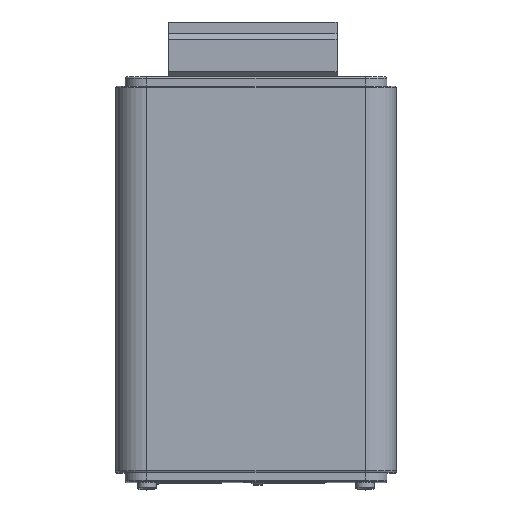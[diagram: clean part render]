
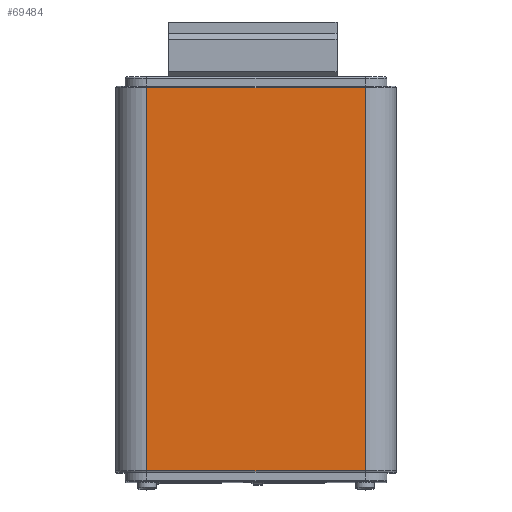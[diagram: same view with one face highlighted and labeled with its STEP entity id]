
A CAD part, top view. The second image highlights one B-rep face of the part: STEP entity #69484.
In plain terms, the highlighted planar face has unit normal (0, 0, 1).
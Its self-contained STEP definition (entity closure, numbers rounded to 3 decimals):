
#4304=PLANE('',#74742);
#7830=FACE_OUTER_BOUND('',#11551,.T.);
#11551=EDGE_LOOP('',(#64960,#64961,#64962,#64963));
#19509=LINE('',#113750,#27638);
#19748=LINE('',#114308,#27877);
#19751=LINE('',#114317,#27880);
#19752=LINE('',#114319,#27881);
#27638=VECTOR('',#92291,10.);
#27877=VECTOR('',#92864,10.);
#27880=VECTOR('',#92879,10.);
#27881=VECTOR('',#92882,10.);
#35623=VERTEX_POINT('',#113744);
#35624=VERTEX_POINT('',#113748);
#35775=VERTEX_POINT('',#114302);
#35776=VERTEX_POINT('',#114306);
#45289=EDGE_CURVE('',#35624,#35623,#19509,.T.);
#45602=EDGE_CURVE('',#35776,#35775,#19748,.T.);
#45607=EDGE_CURVE('',#35775,#35624,#19751,.T.);
#45608=EDGE_CURVE('',#35776,#35623,#19752,.T.);
#64960=ORIENTED_EDGE('',*,*,#45289,.F.);
#64961=ORIENTED_EDGE('',*,*,#45607,.F.);
#64962=ORIENTED_EDGE('',*,*,#45602,.F.);
#64963=ORIENTED_EDGE('',*,*,#45608,.T.);
#69484=ADVANCED_FACE('',(#7830),#4304,.T.);
#74742=AXIS2_PLACEMENT_3D('',#114318,#92880,#92881);
#92291=DIRECTION('',(-1.,0.,0.));
#92864=DIRECTION('',(1.,0.,0.));
#92879=DIRECTION('',(0.,-1.,0.));
#92880=DIRECTION('center_axis',(0.,0.,1.));
#92881=DIRECTION('ref_axis',(-1.,0.,0.));
#92882=DIRECTION('',(0.,-1.,0.));
#113744=CARTESIAN_POINT('',(5.,-63.25,95.));
#113748=CARTESIAN_POINT('',(40.,-63.25,95.));
#113750=CARTESIAN_POINT('',(31.25,-63.25,95.));
#114302=CARTESIAN_POINT('',(40.,-1.75,95.));
#114306=CARTESIAN_POINT('',(5.,-1.75,95.));
#114308=CARTESIAN_POINT('',(31.25,-1.75,95.));
#114317=CARTESIAN_POINT('',(40.,0.,95.));
#114318=CARTESIAN_POINT('Origin',(40.,0.,95.));
#114319=CARTESIAN_POINT('',(5.,0.,95.));
